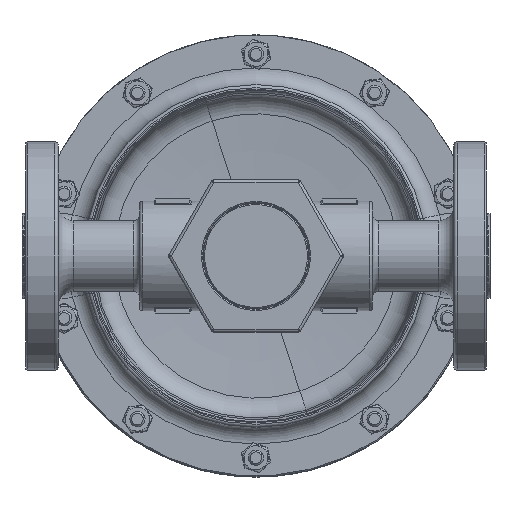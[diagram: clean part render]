
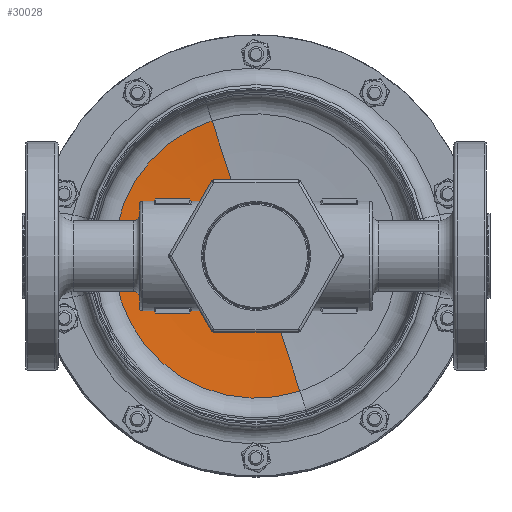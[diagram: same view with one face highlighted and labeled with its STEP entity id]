
A CAD part, front view. The second image highlights one B-rep face of the part: STEP entity #30028.
In plain terms, the highlighted toroidal (fillet/blend) face has major radius 5.756 mm and minor radius 758.429 mm.
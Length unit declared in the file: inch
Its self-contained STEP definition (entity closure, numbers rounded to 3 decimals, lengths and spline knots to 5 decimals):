
#17129 = VERTEX_POINT ( 'NONE', #81315 ) ;
#17130 = VERTEX_POINT ( 'NONE', #81318 ) ;
#30028 = ADVANCED_FACE ( 'NONE', ( #50112 ), #50109, .F. ) ;
#30307 = ORIENTED_EDGE ( 'NONE', *, *, #43097, .F. ) ;
#30362 = ORIENTED_EDGE ( 'NONE', *, *, #43033, .T. ) ;
#30385 = ORIENTED_EDGE ( 'NONE', *, *, #43034, .F. ) ;
#30393 = ORIENTED_EDGE ( 'NONE', *, *, #43030, .T. ) ;
#43030 = EDGE_CURVE ( 'NONE', #52497, #52444, #91953, .T. ) ;
#43033 = EDGE_CURVE ( 'NONE', #17129, #52497, #91955, .T. ) ;
#43034 = EDGE_CURVE ( 'NONE', #17130, #52444, #91957, .T. ) ;
#43097 = EDGE_CURVE ( 'NONE', #17129, #17130, #92021, .T. ) ;
#46760 = EDGE_LOOP ( 'NONE', ( #30307, #30362, #30393, #30385 ) ) ;
#50109 = TOROIDAL_SURFACE ( 'NONE', #52824, -0.22661, 29.85941 ) ;
#50112 = FACE_OUTER_BOUND ( 'NONE', #46760, .T. ) ;
#52444 = VERTEX_POINT ( 'NONE', #100866 ) ;
#52497 = VERTEX_POINT ( 'NONE', #100890 ) ;
#52824 = AXIS2_PLACEMENT_3D ( 'NONE', #59995, #59993, #59998 ) ;
#59993 = DIRECTION ( 'NONE',  ( 0., 1., 0. ) ) ;
#59995 = CARTESIAN_POINT ( 'NONE',  ( 0., -29.0558, 0. ) ) ;
#59998 = DIRECTION ( 'NONE',  ( 0., 0., 1. ) ) ;
#81315 = CARTESIAN_POINT ( 'NONE',  ( 0., 0.69347, -2.33566 ) ) ;
#81318 = CARTESIAN_POINT ( 'NONE',  ( 0., 0.69347, 2.33566 ) ) ;
#85908 = AXIS2_PLACEMENT_3D ( 'NONE', #96339, #96340, #96341 ) ;
#85910 = AXIS2_PLACEMENT_3D ( 'NONE', #96348, #96349, #96350 ) ;
#85911 = AXIS2_PLACEMENT_3D ( 'NONE', #96353, #96354, #96355 ) ;
#85934 = AXIS2_PLACEMENT_3D ( 'NONE', #96594, #96595, #96596 ) ;
#91953 = CIRCLE ( 'NONE', #85908, 0.5 ) ;
#91955 = CIRCLE ( 'NONE', #85910, 29.85941 ) ;
#91957 = CIRCLE ( 'NONE', #85911, 29.85941 ) ;
#92021 = CIRCLE ( 'NONE', #85934, 2.33566 ) ;
#96339 = CARTESIAN_POINT ( 'NONE',  ( 0., 0.79477, 0. ) ) ;
#96340 = DIRECTION ( 'NONE',  ( 0., 1., 0. ) ) ;
#96341 = DIRECTION ( 'NONE',  ( 0., 0., -1. ) ) ;
#96348 = CARTESIAN_POINT ( 'NONE',  ( 0., -29.0558, 0.22661 ) ) ;
#96349 = DIRECTION ( 'NONE',  ( 1., 0., 0. ) ) ;
#96350 = DIRECTION ( 'NONE',  ( 0., 0., -1. ) ) ;
#96353 = CARTESIAN_POINT ( 'NONE',  ( 0., -29.0558, -0.22661 ) ) ;
#96354 = DIRECTION ( 'NONE',  ( -1., 0., 0. ) ) ;
#96355 = DIRECTION ( 'NONE',  ( 0., 0., 1. ) ) ;
#96594 = CARTESIAN_POINT ( 'NONE',  ( 0., 0.69347, 0. ) ) ;
#96595 = DIRECTION ( 'NONE',  ( 0., 1., 0. ) ) ;
#96596 = DIRECTION ( 'NONE',  ( 0., 0., 1. ) ) ;
#100866 = CARTESIAN_POINT ( 'NONE',  ( 0., 0.79477, 0.5 ) ) ;
#100890 = CARTESIAN_POINT ( 'NONE',  ( 0., 0.79477, -0.5 ) ) ;
